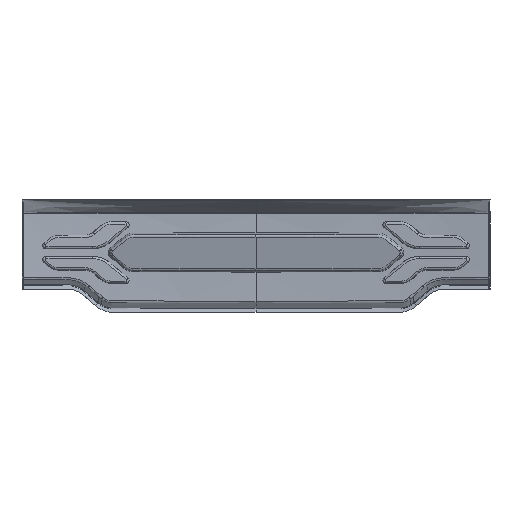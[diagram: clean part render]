
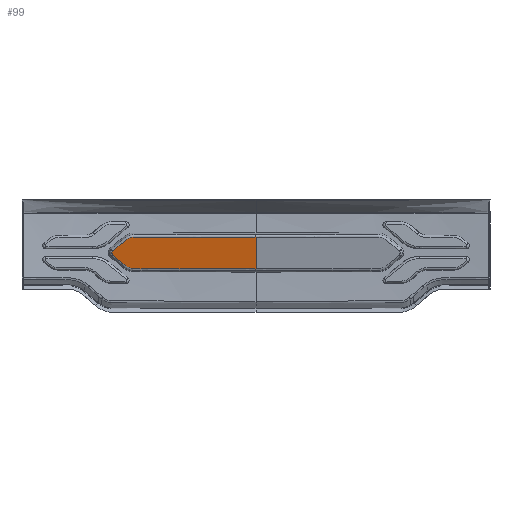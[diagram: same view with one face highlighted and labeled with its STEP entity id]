
A CAD part, left-side view. The second image highlights one B-rep face of the part: STEP entity #99.
In plain terms, the highlighted planar face has unit normal (0.976, 0, 0.216).
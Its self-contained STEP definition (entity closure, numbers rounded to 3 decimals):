
#99=ADVANCED_FACE('',(#311),#3318,.T.);
#311=FACE_OUTER_BOUND('',#527,.T.);
#527=EDGE_LOOP('',(#1058,#1059,#1060,#1061,#1062));
#1058=ORIENTED_EDGE('',*,*,#2021,.T.);
#1059=ORIENTED_EDGE('',*,*,#2018,.T.);
#1060=ORIENTED_EDGE('',*,*,#2029,.T.);
#1061=ORIENTED_EDGE('',*,*,#2024,.T.);
#1062=ORIENTED_EDGE('',*,*,#2028,.F.);
#2018=EDGE_CURVE('',#3124,#3125,#2708,.T.);
#2021=EDGE_CURVE('',#3126,#3124,#2711,.T.);
#2024=EDGE_CURVE('',#3123,#3128,#2713,.T.);
#2028=EDGE_CURVE('',#3126,#3128,#2715,.T.);
#2029=EDGE_CURVE('',#3125,#3123,#2716,.T.);
#2708=B_SPLINE_CURVE_WITH_KNOTS('',3,(#26268,#26269,#26270,#26271,#26272,
#26273,#26274,#26275,#26276,#26277,#26278),.UNSPECIFIED.,.F.,.F.,(4,3,3,
1,4),(699.833,710.887,721.554,721.778,
721.792),.UNSPECIFIED.);
#2711=B_SPLINE_CURVE_WITH_KNOTS('',3,(#26312,#26313,#26314,#26315,#26316,
#26317,#26318,#26319,#26320,#26321,#26322,#26323,#26324,#26325,#26326,#26327),
 .UNSPECIFIED.,.F.,.F.,(4,3,3,3,3,4),(0.001,572.953,
597.838,603.907,622.389,699.833),
 .UNSPECIFIED.);
#2713=B_SPLINE_CURVE_WITH_KNOTS('',3,(#26364,#26365,#26366,#26367,#26368,
#26369,#26370,#26371,#26372,#26373,#26374,#26375,#26376),.UNSPECIFIED.,.F.,
 .F.,(4,3,3,3,4),(0.,76.853,102.153,
127.009,699.679),.UNSPECIFIED.);
#2715=B_SPLINE_CURVE_WITH_KNOTS('',1,(#26412,#26413),.UNSPECIFIED.,.F.,.F.,
(2,2),(3153.385,39366.923),.UNSPECIFIED.);
#2716=B_SPLINE_CURVE_WITH_KNOTS('',3,(#26414,#26415,#26416,#26417,#26418,
#26419),.UNSPECIFIED.,.F.,.F.,(4,1,1,4),(721.792,721.834,
721.89,722.002),.UNSPECIFIED.);
#3123=VERTEX_POINT('',#22402);
#3124=VERTEX_POINT('',#22403);
#3125=VERTEX_POINT('',#22404);
#3126=VERTEX_POINT('',#22405);
#3128=VERTEX_POINT('',#22407);
#3318=PLANE('',#3618);
#3618=AXIS2_PLACEMENT_3D('',#10276,#3635,$);
#3635=DIRECTION('',(0.976,0.,0.216));
#10276=CARTESIAN_POINT('',(72552.625,15653.,-1587.824));
#22402=CARTESIAN_POINT('',(72533.976,16329.968,-1503.531));
#22403=CARTESIAN_POINT('',(72538.124,16329.573,-1522.278));
#22404=CARTESIAN_POINT('',(72533.993,16330.049,-1503.607));
#22405=CARTESIAN_POINT('',(72552.622,15653.,-1587.811));
#22407=CARTESIAN_POINT('',(72519.407,15653.,-1437.677));
#26268=CARTESIAN_POINT('',(72538.124,16329.573,-1522.278));
#26269=CARTESIAN_POINT('',(72537.64,16332.446,-1520.091));
#26270=CARTESIAN_POINT('',(72536.859,16334.173,-1516.561));
#26271=CARTESIAN_POINT('',(72536.07,16334.233,-1512.993));
#26272=CARTESIAN_POINT('',(72535.308,16334.311,-1509.549));
#26273=CARTESIAN_POINT('',(72534.541,16332.845,-1506.082));
#26274=CARTESIAN_POINT('',(72534.026,16330.228,-1503.755));
#26275=CARTESIAN_POINT('',(72534.016,16330.179,-1503.712));
#26276=CARTESIAN_POINT('',(72534.003,16330.105,-1503.652));
#26277=CARTESIAN_POINT('',(72533.994,16330.052,-1503.61));
#26278=CARTESIAN_POINT('',(72533.993,16330.049,-1503.607));
#26312=CARTESIAN_POINT('',(72552.622,15653.,-1587.811));
#26313=CARTESIAN_POINT('',(72552.62,15843.926,-1587.801));
#26314=CARTESIAN_POINT('',(72552.629,16034.852,-1587.841));
#26315=CARTESIAN_POINT('',(72552.623,16225.777,-1587.814));
#26316=CARTESIAN_POINT('',(72552.62,16234.043,-1587.799));
#26317=CARTESIAN_POINT('',(72552.294,16242.276,-1586.328));
#26318=CARTESIAN_POINT('',(72551.671,16249.997,-1583.512));
#26319=CARTESIAN_POINT('',(72551.52,16251.881,-1582.826));
#26320=CARTESIAN_POINT('',(72551.35,16253.734,-1582.06));
#26321=CARTESIAN_POINT('',(72551.164,16255.549,-1581.218));
#26322=CARTESIAN_POINT('',(72550.597,16261.079,-1578.655));
#26323=CARTESIAN_POINT('',(72549.873,16266.263,-1575.383));
#26324=CARTESIAN_POINT('',(72549.018,16270.931,-1571.518));
#26325=CARTESIAN_POINT('',(72545.383,16290.484,-1555.091));
#26326=CARTESIAN_POINT('',(72541.754,16310.031,-1538.687));
#26327=CARTESIAN_POINT('',(72538.124,16329.573,-1522.278));
#26364=CARTESIAN_POINT('',(72533.976,16329.968,-1503.531));
#26365=CARTESIAN_POINT('',(72530.356,16310.462,-1487.169));
#26366=CARTESIAN_POINT('',(72526.749,16291.036,-1470.863));
#26367=CARTESIAN_POINT('',(72523.142,16271.61,-1454.558));
#26368=CARTESIAN_POINT('',(72521.945,16265.254,-1449.151));
#26369=CARTESIAN_POINT('',(72520.996,16257.895,-1444.861));
#26370=CARTESIAN_POINT('',(72520.358,16249.997,-1441.978));
#26371=CARTESIAN_POINT('',(72519.732,16242.237,-1439.146));
#26372=CARTESIAN_POINT('',(72519.405,16233.956,-1437.67));
#26373=CARTESIAN_POINT('',(72519.407,16225.67,-1437.677));
#26374=CARTESIAN_POINT('',(72519.407,16034.78,-1437.676));
#26375=CARTESIAN_POINT('',(72519.407,15843.89,-1437.677));
#26376=CARTESIAN_POINT('',(72519.407,15653.,-1437.677));
#26412=CARTESIAN_POINT('',(72552.622,15653.,-1587.811));
#26413=CARTESIAN_POINT('',(72519.407,15653.,-1437.677));
#26414=CARTESIAN_POINT('',(72533.993,16330.049,-1503.607));
#26415=CARTESIAN_POINT('',(72533.991,16330.041,-1503.599));
#26416=CARTESIAN_POINT('',(72533.988,16330.024,-1503.582));
#26417=CARTESIAN_POINT('',(72533.984,16330.007,-1503.566));
#26418=CARTESIAN_POINT('',(72533.979,16329.98,-1503.541));
#26419=CARTESIAN_POINT('',(72533.976,16329.968,-1503.531));
